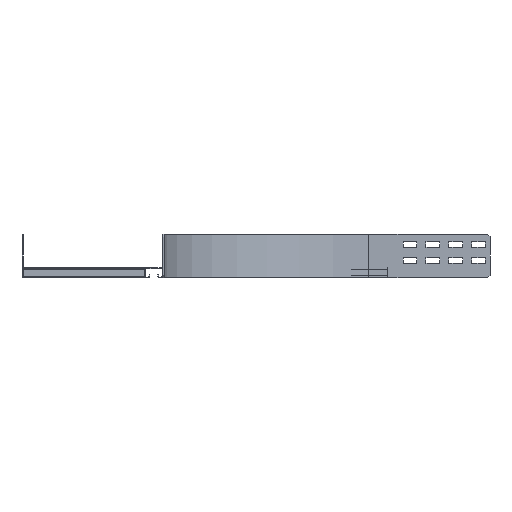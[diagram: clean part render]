
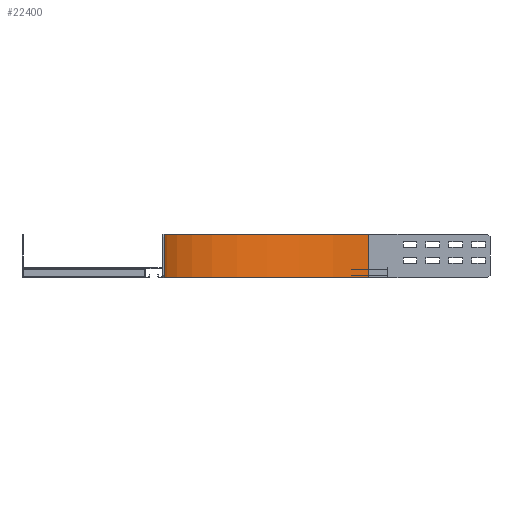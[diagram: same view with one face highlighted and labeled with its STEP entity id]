
A CAD part, left-side view. The second image highlights one B-rep face of the part: STEP entity #22400.
In plain terms, the highlighted cylindrical face has radius 447 mm (diameter 894 mm), a partial arc.
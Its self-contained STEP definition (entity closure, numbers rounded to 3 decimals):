
#450=CARTESIAN_POINT('',(447.,-450.,-50.));
#460=VERTEX_POINT('',#450);
#490=CARTESIAN_POINT('',(0.,-450.,-50.));
#500=DIRECTION('',(0.,0.,1.));
#510=DIRECTION('',(1.,0.,0.));
#520=AXIS2_PLACEMENT_3D('',#490,#500,#510);
#530=CIRCLE('',#520,447.);
#540=CARTESIAN_POINT('',(0.,-3.,-50.));
#550=VERTEX_POINT('',#540);
#560=EDGE_CURVE('',#460,#550,#530,.T.);
#3960=CARTESIAN_POINT('',(0.,-3.,-145.));
#3970=VERTEX_POINT('',#3960);
#4000=CARTESIAN_POINT('',(0.,-450.,-145.));
#4010=DIRECTION('',(0.,0.,1.));
#4020=DIRECTION('',(1.,0.,0.));
#4030=AXIS2_PLACEMENT_3D('',#4000,#4010,#4020);
#4040=CIRCLE('',#4030,447.);
#4050=CARTESIAN_POINT('',(447.,-450.,-145.));
#4060=VERTEX_POINT('',#4050);
#4070=EDGE_CURVE('',#4060,#3970,#4040,.T.);
#8080=CARTESIAN_POINT('',(447.,-450.,0.));
#8090=DIRECTION('',(0.,0.,1.));
#8100=VECTOR('',#8090,1.);
#8110=LINE('',#8080,#8100);
#8120=EDGE_CURVE('',#4060,#460,#8110,.T.);
#13780=CARTESIAN_POINT('',(0.,-3.,0.));
#13790=DIRECTION('',(0.,0.,1.));
#13800=VECTOR('',#13790,1.);
#13810=LINE('',#13780,#13800);
#13820=EDGE_CURVE('',#3970,#550,#13810,.T.);
#22290=CARTESIAN_POINT('',(0.,-450.,0.));
#22300=DIRECTION('',(0.,0.,1.));
#22310=DIRECTION('',(1.,0.,0.));
#22320=AXIS2_PLACEMENT_3D('',#22290,#22300,#22310);
#22330=CYLINDRICAL_SURFACE('',#22320,447.);
#22340=ORIENTED_EDGE('',*,*,#560,.T.);
#22350=ORIENTED_EDGE('',*,*,#8120,.T.);
#22360=ORIENTED_EDGE('',*,*,#4070,.F.);
#22370=ORIENTED_EDGE('',*,*,#13820,.F.);
#22380=EDGE_LOOP('',(#22370,#22360,#22350,#22340));
#22390=FACE_OUTER_BOUND('',#22380,.T.);
#22400=ADVANCED_FACE('',(#22390),#22330,.F.);
